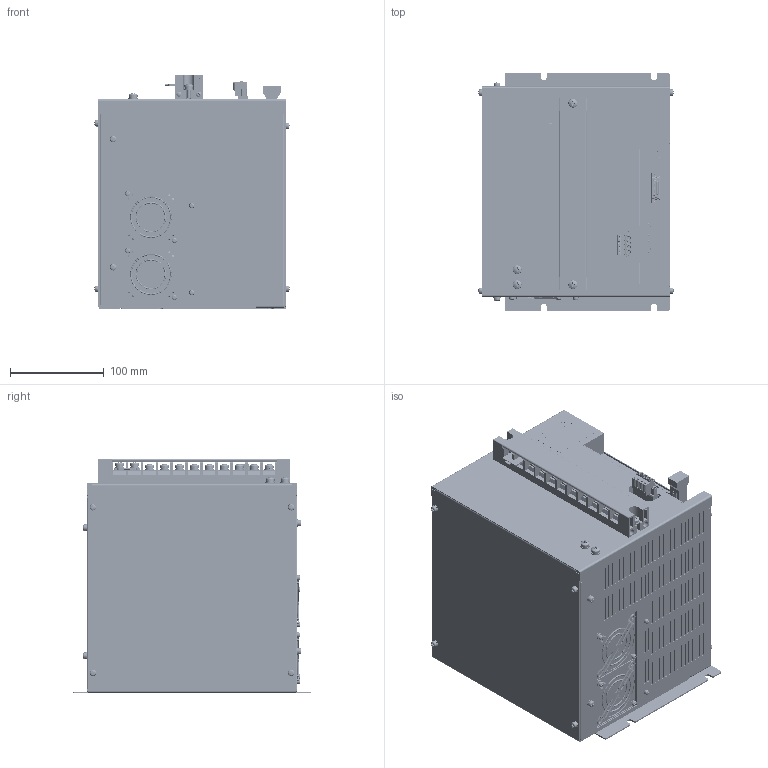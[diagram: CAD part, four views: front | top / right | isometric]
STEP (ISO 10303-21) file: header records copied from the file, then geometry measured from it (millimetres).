
FILE_DESCRIPTION (( 'STEP AP214' ), '1' );
FILE_NAME ('NCR-HD2_702#SE-83400A.STEP', '2020-02-13T08:01:49', ( '' ), ( '' ), 'SwSTEP 2.0', 'SolidWorks 2018', '' );
FILE_SCHEMA (( 'AUTOMOTIVE_DESIGN' ));
Length unit declared in the file: millimetre
Products named in the file (1): NCR-HD2_702#SE-83400A
Bounding box: 208.7 x 255 x 251 mm (x, y, z)
Volume: 10057487.7 mm3; surface area: 413027.8 mm2
Topology: 4 solids, 39 shells, 7671 faces, 20079 edges, 13160 vertices
Faces by surface type: plane 4729, cylinder 1991, cone 386, bspline 367, torus 118, sphere 80
Entity records: 333633 total; most frequent: CARTESIAN_POINT 59046, ORIENTED_EDGE 40142, DIRECTION 38472, EDGE_CURVE 20071, VECTOR 13376, LINE 13376, VERTEX_POINT 13160, AXIS2_PLACEMENT_3D 12548
